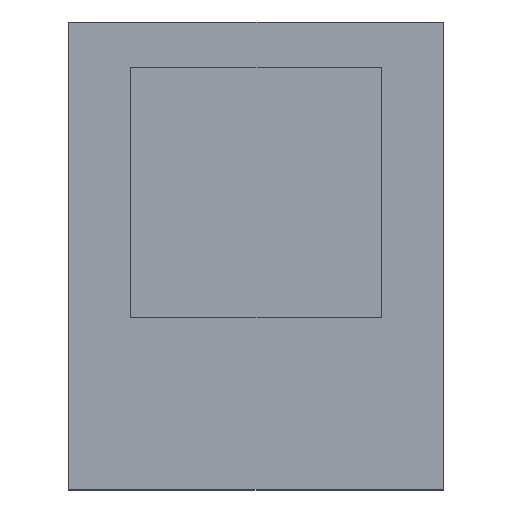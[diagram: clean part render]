
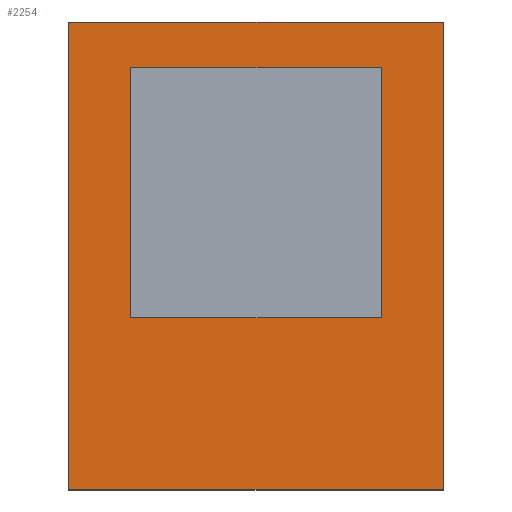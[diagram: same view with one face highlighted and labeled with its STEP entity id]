
A CAD part, top view. The second image highlights one B-rep face of the part: STEP entity #2254.
In plain terms, the highlighted planar face has unit normal (0, 0, 1).
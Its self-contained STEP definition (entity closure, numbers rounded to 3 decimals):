
#32 = CARTESIAN_POINT ( 'NONE',  ( -0.318, 0.895, 2.475 ) ) ;
#250 = EDGE_CURVE ( 'NONE', #3805, #3184, #1150, .T. ) ;
#306 = VECTOR ( 'NONE', #3107, 1000. ) ;
#314 = LINE ( 'NONE', #371, #1582 ) ;
#371 = CARTESIAN_POINT ( 'NONE',  ( 1.017, 1.09, 2.475 ) ) ;
#474 = CARTESIAN_POINT ( 'NONE',  ( 0.752, 0.895, 2.475 ) ) ;
#562 = VECTOR ( 'NONE', #3042, 1000. ) ;
#828 = DIRECTION ( 'NONE',  ( 0., 0., 1. ) ) ;
#885 = AXIS2_PLACEMENT_3D ( 'NONE', #3693, #828, #2364 ) ;
#1006 = LINE ( 'NONE', #3951, #3901 ) ;
#1049 = CARTESIAN_POINT ( 'NONE',  ( 1.017, -0.91, 2.475 ) ) ;
#1069 = CARTESIAN_POINT ( 'NONE',  ( 0.752, -0.175, 2.475 ) ) ;
#1092 = FACE_BOUND ( 'NONE', #1723, .T. ) ;
#1150 = LINE ( 'NONE', #3127, #306 ) ;
#1270 = VERTEX_POINT ( 'NONE', #2921 ) ;
#1322 = CARTESIAN_POINT ( 'NONE',  ( -0.318, -0.175, 2.475 ) ) ;
#1330 = DIRECTION ( 'NONE',  ( 0., 1., 0. ) ) ;
#1443 = EDGE_LOOP ( 'NONE', ( #2903, #2192, #1572, #4139 ) ) ;
#1550 = LINE ( 'NONE', #1584, #3849 ) ;
#1559 = VERTEX_POINT ( 'NONE', #1049 ) ;
#1572 = ORIENTED_EDGE ( 'NONE', *, *, #2355, .T. ) ;
#1582 = VECTOR ( 'NONE', #4162, 1000. ) ;
#1584 = CARTESIAN_POINT ( 'NONE',  ( -0.583, -0.91, 2.475 ) ) ;
#1597 = EDGE_CURVE ( 'NONE', #2582, #1759, #3980, .T. ) ;
#1723 = EDGE_LOOP ( 'NONE', ( #2219, #4071, #3445, #1753 ) ) ;
#1753 = ORIENTED_EDGE ( 'NONE', *, *, #3567, .T. ) ;
#1759 = VERTEX_POINT ( 'NONE', #1322 ) ;
#1789 = FACE_OUTER_BOUND ( 'NONE', #1443, .T. ) ;
#1928 = VERTEX_POINT ( 'NONE', #3688 ) ;
#1989 = CARTESIAN_POINT ( 'NONE',  ( 0.752, -0.175, 2.475 ) ) ;
#2020 = LINE ( 'NONE', #3640, #3847 ) ;
#2078 = EDGE_CURVE ( 'NONE', #1559, #3805, #314, .T. ) ;
#2085 = VECTOR ( 'NONE', #1330, 1000. ) ;
#2176 = VERTEX_POINT ( 'NONE', #2585 ) ;
#2192 = ORIENTED_EDGE ( 'NONE', *, *, #250, .T. ) ;
#2219 = ORIENTED_EDGE ( 'NONE', *, *, #3809, .T. ) ;
#2254 = ADVANCED_FACE ( 'NONE', ( #1092, #1789 ), #2412, .T. ) ;
#2316 = DIRECTION ( 'NONE',  ( -1., 0., 0. ) ) ;
#2354 = CARTESIAN_POINT ( 'NONE',  ( 1.017, 1.09, 2.475 ) ) ;
#2355 = EDGE_CURVE ( 'NONE', #3184, #1270, #1006, .T. ) ;
#2364 = DIRECTION ( 'NONE',  ( 1., 0., 0. ) ) ;
#2412 = PLANE ( 'NONE',  #885 ) ;
#2582 = VERTEX_POINT ( 'NONE', #1989 ) ;
#2585 = CARTESIAN_POINT ( 'NONE',  ( -0.318, 0.895, 2.475 ) ) ;
#2640 = EDGE_CURVE ( 'NONE', #1759, #2176, #3899, .T. ) ;
#2795 = CARTESIAN_POINT ( 'NONE',  ( -0.583, 1.09, 2.475 ) ) ;
#2903 = ORIENTED_EDGE ( 'NONE', *, *, #2078, .T. ) ;
#2921 = CARTESIAN_POINT ( 'NONE',  ( -0.583, -0.91, 2.475 ) ) ;
#3042 = DIRECTION ( 'NONE',  ( 1., 0., 0. ) ) ;
#3107 = DIRECTION ( 'NONE',  ( -1., 0., 0. ) ) ;
#3127 = CARTESIAN_POINT ( 'NONE',  ( -0.583, 1.09, 2.475 ) ) ;
#3170 = DIRECTION ( 'NONE',  ( 1., 0., 0. ) ) ;
#3184 = VERTEX_POINT ( 'NONE', #2795 ) ;
#3388 = LINE ( 'NONE', #474, #562 ) ;
#3445 = ORIENTED_EDGE ( 'NONE', *, *, #2640, .T. ) ;
#3567 = EDGE_CURVE ( 'NONE', #2176, #1928, #3388, .T. ) ;
#3625 = DIRECTION ( 'NONE',  ( 0., -1., 0. ) ) ;
#3640 = CARTESIAN_POINT ( 'NONE',  ( 0.752, 0.895, 2.475 ) ) ;
#3688 = CARTESIAN_POINT ( 'NONE',  ( 0.752, 0.895, 2.475 ) ) ;
#3693 = CARTESIAN_POINT ( 'NONE',  ( 0.217, 0.09, 2.475 ) ) ;
#3805 = VERTEX_POINT ( 'NONE', #2354 ) ;
#3809 = EDGE_CURVE ( 'NONE', #1928, #2582, #2020, .T. ) ;
#3847 = VECTOR ( 'NONE', #3878, 1000. ) ;
#3849 = VECTOR ( 'NONE', #3170, 1000. ) ;
#3878 = DIRECTION ( 'NONE',  ( 0., -1., 0. ) ) ;
#3899 = LINE ( 'NONE', #32, #2085 ) ;
#3901 = VECTOR ( 'NONE', #3625, 1000. ) ;
#3915 = EDGE_CURVE ( 'NONE', #1270, #1559, #1550, .T. ) ;
#3951 = CARTESIAN_POINT ( 'NONE',  ( -0.583, 1.09, 2.475 ) ) ;
#3980 = LINE ( 'NONE', #1069, #4027 ) ;
#4027 = VECTOR ( 'NONE', #2316, 1000. ) ;
#4071 = ORIENTED_EDGE ( 'NONE', *, *, #1597, .T. ) ;
#4139 = ORIENTED_EDGE ( 'NONE', *, *, #3915, .T. ) ;
#4162 = DIRECTION ( 'NONE',  ( 0., 1., 0. ) ) ;
